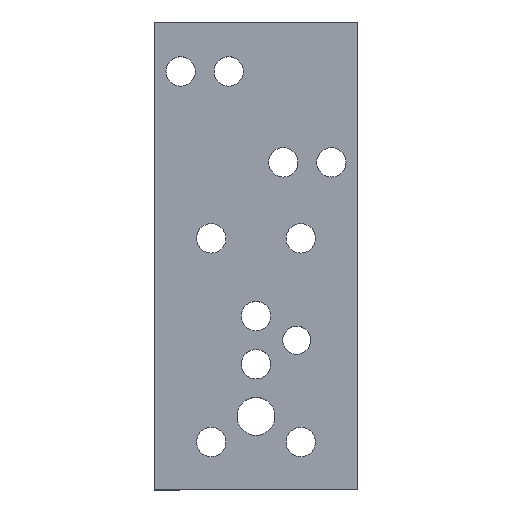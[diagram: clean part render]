
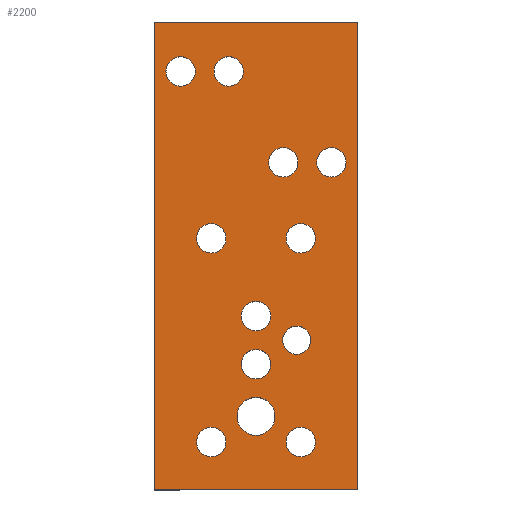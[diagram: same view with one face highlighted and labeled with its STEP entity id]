
A CAD part, top view. The second image highlights one B-rep face of the part: STEP entity #2200.
In plain terms, the highlighted planar face has unit normal (0, 0, 1) as drawn and (-1, 0, 0) by its records, which use the part's own axes.
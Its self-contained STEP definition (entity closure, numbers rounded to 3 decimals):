
#10=CARTESIAN_POINT('',(3.631,-1.975,
4.29));
#20=DIRECTION('',(1.,0.,0.));
#30=DIRECTION('',(0.,0.,1.));
#40=AXIS2_PLACEMENT_3D('',#10,#20,#30);
#50=PLANE('',#40);
#60=CARTESIAN_POINT('',(3.631,-1.825,8.1));
#70=DIRECTION('',(1.,0.,0.));
#80=DIRECTION('',(0.,0.,1.));
#90=AXIS2_PLACEMENT_3D('',#60,#70,#80);
#100=CIRCLE('',#90,0.525);
#110=CARTESIAN_POINT('',(3.631,-1.825,8.625));
#120=VERTEX_POINT('',#110);
#130=CARTESIAN_POINT('',(3.631,-1.825,7.575));
#140=VERTEX_POINT('',#130);
#150=EDGE_CURVE('',#120,#140,#100,.T.);
#160=ORIENTED_EDGE('',*,*,#150,.T.);
#170=EDGE_CURVE('',#140,#120,#100,.T.);
#180=ORIENTED_EDGE('',*,*,#170,.T.);
#190=EDGE_LOOP('',(#180,#160));
#200=FACE_BOUND('',#190,.T.);
#210=CARTESIAN_POINT('',(3.631,1.375,4.29));
#220=DIRECTION('',(1.,0.,0.));
#230=DIRECTION('',(0.,0.,1.));
#240=AXIS2_PLACEMENT_3D('',#210,#220,#230);
#250=CIRCLE('',#240,0.55);
#260=CARTESIAN_POINT('',(3.631,1.375,4.84));
#270=VERTEX_POINT('',#260);
#280=CARTESIAN_POINT('',(3.631,1.375,3.74));
#290=VERTEX_POINT('',#280);
#300=EDGE_CURVE('',#270,#290,#250,.T.);
#310=ORIENTED_EDGE('',*,*,#300,.T.);
#320=EDGE_CURVE('',#290,#270,#250,.T.);
#330=ORIENTED_EDGE('',*,*,#320,.T.);
#340=EDGE_LOOP('',(#330,#310));
#350=FACE_BOUND('',#340,.T.);
#360=CARTESIAN_POINT('',(3.631,-0.3,
7.2));
#370=DIRECTION('',(1.,0.,0.));
#380=DIRECTION('',(0.,0.,1.));
#390=AXIS2_PLACEMENT_3D('',#360,#370,#380);
#400=CIRCLE('',#390,0.55);
#410=CARTESIAN_POINT('',(3.631,-0.3,
7.75));
#420=VERTEX_POINT('',#410);
#430=CARTESIAN_POINT('',(3.631,-0.3,
6.65));
#440=VERTEX_POINT('',#430);
#450=EDGE_CURVE('',#420,#440,#400,.T.);
#460=ORIENTED_EDGE('',*,*,#450,.T.);
#470=EDGE_CURVE('',#440,#420,#400,.T.);
#480=ORIENTED_EDGE('',*,*,#470,.T.);
#490=EDGE_LOOP('',(#480,#460));
#500=FACE_BOUND('',#490,.T.);
#510=CARTESIAN_POINT('',(3.631,-0.3,
9.));
#520=DIRECTION('',(1.,0.,0.));
#530=DIRECTION('',(0.,0.,1.));
#540=AXIS2_PLACEMENT_3D('',#510,#520,#530);
#550=CIRCLE('',#540,0.55);
#560=CARTESIAN_POINT('',(3.631,-0.3,
9.55));
#570=VERTEX_POINT('',#560);
#580=CARTESIAN_POINT('',(3.631,-0.3,
8.45));
#590=VERTEX_POINT('',#580);
#600=EDGE_CURVE('',#570,#590,#550,.T.);
#610=ORIENTED_EDGE('',*,*,#600,.T.);
#620=EDGE_CURVE('',#590,#570,#550,.T.);
#630=ORIENTED_EDGE('',*,*,#620,.T.);
#640=EDGE_LOOP('',(#630,#610));
#650=FACE_BOUND('',#640,.T.);
#660=CARTESIAN_POINT('',(3.631,1.375,11.91));
#670=DIRECTION('',(1.,0.,0.));
#680=DIRECTION('',(0.,0.,1.));
#690=AXIS2_PLACEMENT_3D('',#660,#670,#680);
#700=CIRCLE('',#690,0.55);
#710=CARTESIAN_POINT('',(3.631,1.375,12.46));
#720=VERTEX_POINT('',#710);
#730=CARTESIAN_POINT('',(3.631,1.375,11.36));
#740=VERTEX_POINT('',#730);
#750=EDGE_CURVE('',#720,#740,#700,.T.);
#760=ORIENTED_EDGE('',*,*,#750,.T.);
#770=EDGE_CURVE('',#740,#720,#700,.T.);
#780=ORIENTED_EDGE('',*,*,#770,.T.);
#790=EDGE_LOOP('',(#780,#760));
#800=FACE_BOUND('',#790,.T.);
#810=CARTESIAN_POINT('',(3.631,0.72,18.15));
#820=DIRECTION('',(1.,0.,0.));
#830=DIRECTION('',(0.,0.,1.));
#840=AXIS2_PLACEMENT_3D('',#810,#820,#830);
#850=CIRCLE('',#840,0.55);
#860=CARTESIAN_POINT('',(3.631,0.72,18.7));
#870=VERTEX_POINT('',#860);
#880=CARTESIAN_POINT('',(3.631,0.72,17.6));
#890=VERTEX_POINT('',#880);
#900=EDGE_CURVE('',#870,#890,#850,.T.);
#910=ORIENTED_EDGE('',*,*,#900,.T.);
#920=EDGE_CURVE('',#890,#870,#850,.T.);
#930=ORIENTED_EDGE('',*,*,#920,.T.);
#940=EDGE_LOOP('',(#930,#910));
#950=FACE_BOUND('',#940,.T.);
#960=CARTESIAN_POINT('',(3.631,-1.975,
4.29));
#970=DIRECTION('',(1.,0.,0.));
#980=DIRECTION('',(0.,0.,1.));
#990=AXIS2_PLACEMENT_3D('',#960,#970,#980);
#1000=CIRCLE('',#990,0.55);
#1010=CARTESIAN_POINT('',(3.631,-1.975,
4.84));
#1020=VERTEX_POINT('',#1010);
#1030=CARTESIAN_POINT('',(3.631,-1.975,
3.74));
#1040=VERTEX_POINT('',#1030);
#1050=EDGE_CURVE('',#1020,#1040,#1000,.T.);
#1060=ORIENTED_EDGE('',*,*,#1050,.T.);
#1070=EDGE_CURVE('',#1040,#1020,#1000,.T.);
#1080=ORIENTED_EDGE('',*,*,#1070,.T.);
#1090=EDGE_LOOP('',(#1080,#1060));
#1100=FACE_BOUND('',#1090,.T.);
#1110=CARTESIAN_POINT('',(3.631,-1.975,11.91));
#1120=DIRECTION('',(1.,0.,0.));
#1130=DIRECTION('',(0.,0.,1.));
#1140=AXIS2_PLACEMENT_3D('',#1110,#1120,#1130);
#1150=CIRCLE('',#1140,0.55);
#1160=CARTESIAN_POINT('',(3.631,-1.975,12.46));
#1170=VERTEX_POINT('',#1160);
#1180=CARTESIAN_POINT('',(3.631,-1.975,11.36));
#1190=VERTEX_POINT('',#1180);
#1200=EDGE_CURVE('',#1170,#1190,#1150,.T.);
#1210=ORIENTED_EDGE('',*,*,#1200,.T.);
#1220=EDGE_CURVE('',#1190,#1170,#1150,.T.);
#1230=ORIENTED_EDGE('',*,*,#1220,.T.);
#1240=EDGE_LOOP('',(#1230,#1210));
#1250=FACE_BOUND('',#1240,.T.);
#1260=CARTESIAN_POINT('',(3.631,-1.32,14.75));
#1270=DIRECTION('',(1.,0.,0.));
#1280=DIRECTION('',(0.,0.,1.));
#1290=AXIS2_PLACEMENT_3D('',#1260,#1270,#1280);
#1300=CIRCLE('',#1290,0.55);
#1310=CARTESIAN_POINT('',(3.631,-1.32,15.3));
#1320=VERTEX_POINT('',#1310);
#1330=CARTESIAN_POINT('',(3.631,-1.32,14.2));
#1340=VERTEX_POINT('',#1330);
#1350=EDGE_CURVE('',#1320,#1340,#1300,.T.);
#1360=ORIENTED_EDGE('',*,*,#1350,.T.);
#1370=EDGE_CURVE('',#1340,#1320,#1300,.T.);
#1380=ORIENTED_EDGE('',*,*,#1370,.T.);
#1390=EDGE_LOOP('',(#1380,#1360));
#1400=FACE_BOUND('',#1390,.T.);
#1410=CARTESIAN_POINT('',(3.631,2.52,18.15));
#1420=DIRECTION('',(1.,0.,0.));
#1430=DIRECTION('',(0.,0.,1.));
#1440=AXIS2_PLACEMENT_3D('',#1410,#1420,#1430);
#1450=CIRCLE('',#1440,0.55);
#1460=CARTESIAN_POINT('',(3.631,2.52,18.7));
#1470=VERTEX_POINT('',#1460);
#1480=CARTESIAN_POINT('',(3.631,2.52,17.6));
#1490=VERTEX_POINT('',#1480);
#1500=EDGE_CURVE('',#1470,#1490,#1450,.T.);
#1510=ORIENTED_EDGE('',*,*,#1500,.T.);
#1520=EDGE_CURVE('',#1490,#1470,#1450,.T.);
#1530=ORIENTED_EDGE('',*,*,#1520,.T.);
#1540=EDGE_LOOP('',(#1530,#1510));
#1550=FACE_BOUND('',#1540,.T.);
#1560=CARTESIAN_POINT('',(3.631,-3.12,14.75));
#1570=DIRECTION('',(1.,0.,0.));
#1580=DIRECTION('',(0.,0.,1.));
#1590=AXIS2_PLACEMENT_3D('',#1560,#1570,#1580);
#1600=CIRCLE('',#1590,0.55);
#1610=CARTESIAN_POINT('',(3.631,-3.12,15.3));
#1620=VERTEX_POINT('',#1610);
#1630=CARTESIAN_POINT('',(3.631,-3.12,14.2));
#1640=VERTEX_POINT('',#1630);
#1650=EDGE_CURVE('',#1620,#1640,#1600,.T.);
#1660=ORIENTED_EDGE('',*,*,#1650,.T.);
#1670=EDGE_CURVE('',#1640,#1620,#1600,.T.);
#1680=ORIENTED_EDGE('',*,*,#1670,.T.);
#1690=EDGE_LOOP('',(#1680,#1660));
#1700=FACE_BOUND('',#1690,.T.);
#1710=CARTESIAN_POINT('',(3.631,-0.3,5.25));
#1720=DIRECTION('',(1.,0.,0.));
#1730=DIRECTION('',(0.,0.,1.));
#1740=AXIS2_PLACEMENT_3D('',#1710,#1720,#1730);
#1750=CIRCLE('',#1740,0.71);
#1760=CARTESIAN_POINT('',(3.631,-0.3,5.96));
#1770=VERTEX_POINT('',#1760);
#1780=CARTESIAN_POINT('',(3.631,-0.3,4.54));
#1790=VERTEX_POINT('',#1780);
#1800=EDGE_CURVE('',#1770,#1790,#1750,.T.);
#1810=ORIENTED_EDGE('',*,*,#1800,.T.);
#1820=EDGE_CURVE('',#1790,#1770,#1750,.T.);
#1830=ORIENTED_EDGE('',*,*,#1820,.T.);
#1840=EDGE_LOOP('',(#1830,#1810));
#1850=FACE_BOUND('',#1840,.T.);
#1860=CARTESIAN_POINT('',(3.631,3.51,13.5));
#1870=DIRECTION('',(0.,0.,-1.));
#1880=VECTOR('',#1870,1.);
#1890=LINE('',#1860,#1880);
#1900=CARTESIAN_POINT('',(3.631,3.51,20.));
#1910=VERTEX_POINT('',#1900);
#1920=CARTESIAN_POINT('',(3.631,3.51,
2.5));
#1930=VERTEX_POINT('',#1920);
#1940=EDGE_CURVE('',#1910,#1930,#1890,.T.);
#1950=ORIENTED_EDGE('',*,*,#1940,.T.);
#1960=CARTESIAN_POINT('',(3.631,-4.11,20.));
#1970=DIRECTION('',(0.,1.,0.));
#1980=VECTOR('',#1970,1.);
#1990=LINE('',#1960,#1980);
#2000=CARTESIAN_POINT('',(3.631,-4.11,20.));
#2010=VERTEX_POINT('',#2000);
#2020=EDGE_CURVE('',#2010,#1910,#1990,.T.);
#2030=ORIENTED_EDGE('',*,*,#2020,.T.);
#2040=CARTESIAN_POINT('',(3.631,-4.11,
2.5));
#2050=DIRECTION('',(0.,0.,1.));
#2060=VECTOR('',#2050,1.);
#2070=LINE('',#2040,#2060);
#2080=CARTESIAN_POINT('',(3.631,-4.11,
2.5));
#2090=VERTEX_POINT('',#2080);
#2100=EDGE_CURVE('',#2090,#2010,#2070,.T.);
#2110=ORIENTED_EDGE('',*,*,#2100,.T.);
#2120=CARTESIAN_POINT('',(3.631,3.51,
2.5));
#2130=DIRECTION('',(0.,-1.,0.));
#2140=VECTOR('',#2130,1.);
#2150=LINE('',#2120,#2140);
#2160=EDGE_CURVE('',#1930,#2090,#2150,.T.);
#2170=ORIENTED_EDGE('',*,*,#2160,.T.);
#2180=EDGE_LOOP('',(#2170,#2110,#2030,#1950));
#2190=FACE_OUTER_BOUND('',#2180,.T.);
#2200=ADVANCED_FACE('',(#200,#350,#500,#650,#800,#950,#1100,#1250,#1400,
#1550,#1700,#1850,#2190),#50,.F.);
